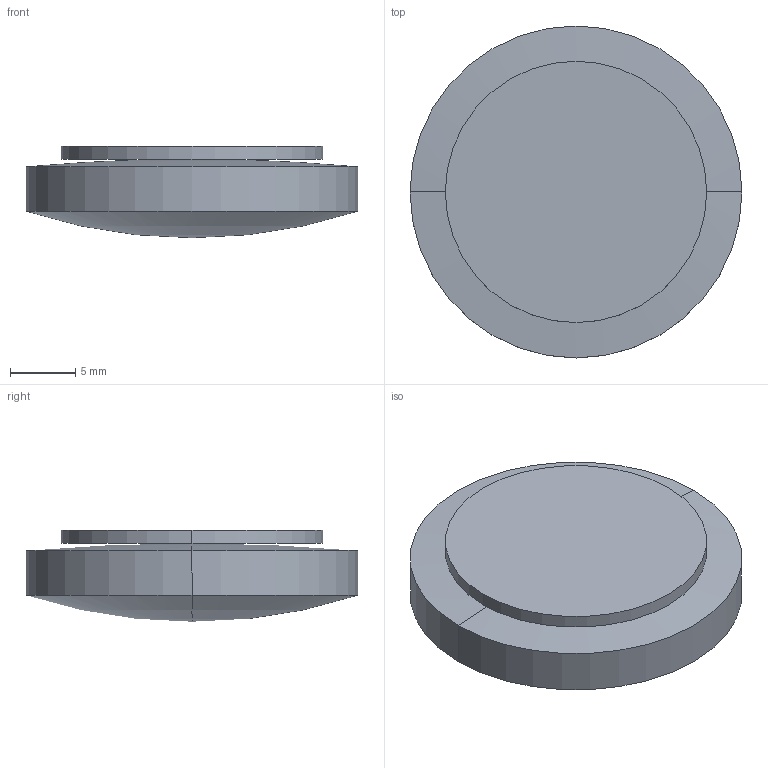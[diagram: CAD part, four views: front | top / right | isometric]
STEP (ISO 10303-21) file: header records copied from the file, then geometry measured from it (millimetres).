
FILE_DESCRIPTION(('STEP AP214'),'1');
FILE_NAME('LLF-25-80.STEP','2020-03-09T17:41:22',(' '),(' '),'Spatial InterOp 3D',' ',' ');
FILE_SCHEMA(('AUTOMOTIVE_DESIGN { 1 0 10303 214 1 1 1 1 }'));
Length unit declared in the file: millimetre
Products named in the file (1): 1
Bounding box: 25.4 x 25.4 x 7 mm (x, y, z)
Volume: 2700.1 mm3; surface area: 1989.8 mm2
Topology: 2 solids, 2 shells, 10 faces, 20 edges, 10 vertices
Faces by surface type: sphere 4, cylinder 4, plane 2
Entity records: 255 total; most frequent: DIRECTION 52, CARTESIAN_POINT 38, ORIENTED_EDGE 32, AXIS2_PLACEMENT_3D 24, EDGE_CURVE 16, CIRCLE 12, ADVANCED_FACE 10, FACE_OUTER_BOUND 10
